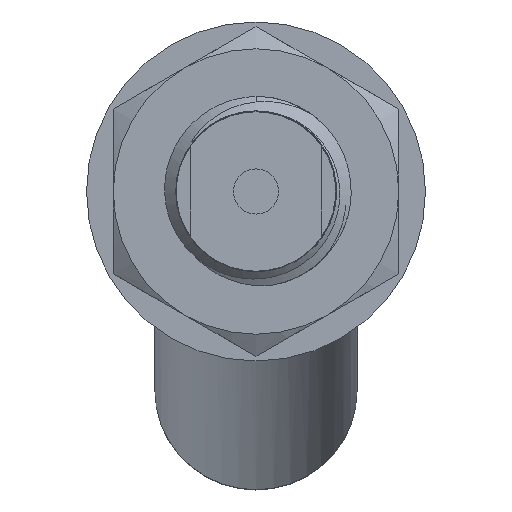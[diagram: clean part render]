
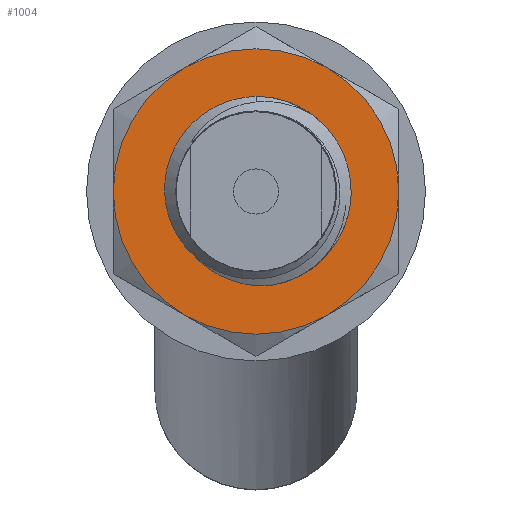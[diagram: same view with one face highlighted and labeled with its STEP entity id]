
A CAD part, front view. The second image highlights one B-rep face of the part: STEP entity #1004.
In plain terms, the highlighted planar face has unit normal (0, -1, 0).
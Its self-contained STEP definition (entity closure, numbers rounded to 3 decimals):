
#845=PLANE('',#2603);
#1004=ADVANCED_FACE('',(#1129,#1130),#845,.T.);
#1129=FACE_BOUND('',#1215,.T.);
#1130=FACE_BOUND('',#1216,.T.);
#1215=EDGE_LOOP('',(#1591,#1592,#1593,#1594,#1595,#1596));
#1216=EDGE_LOOP('',(#1597,#1598,#1599,#1600));
#1312=CIRCLE('',#2584,12.);
#1313=CIRCLE('',#2586,12.);
#1314=CIRCLE('',#2588,12.);
#1315=CIRCLE('',#2590,12.);
#1316=CIRCLE('',#2592,12.);
#1317=CIRCLE('',#2594,12.);
#1320=CIRCLE('',#2601,6.775);
#1321=CIRCLE('',#2602,8.);
#1400=B_SPLINE_CURVE_WITH_KNOTS('',3,(#5162,#5163,#5164,#5165,#5166,#5167,
#5168,#5169,#5170,#5171,#5172,#5173,#5174,#5175,#5176,#5177,#5178,#5179,
#5180,#5181,#5182,#5183),.UNSPECIFIED.,.F.,.F.,(4,3,3,3,3,3,3,4),(0.,0.132,
0.272,0.415,0.563,0.714,
0.869,1.),.UNSPECIFIED.);
#1401=B_SPLINE_CURVE_WITH_KNOTS('',3,(#5188,#5189,#5190,#5191,#5192,#5193,
#5194,#5195,#5196,#5197,#5198,#5199,#5200,#5201,#5202,#5203,#5204,#5205,
#5206,#5207,#5208,#5209),.UNSPECIFIED.,.F.,.F.,(4,3,3,3,3,3,3,4),(0.,0.155,
0.318,0.476,0.63,0.78,
0.927,1.),.UNSPECIFIED.);
#1591=ORIENTED_EDGE('',*,*,#2173,.T.);
#1592=ORIENTED_EDGE('',*,*,#2168,.T.);
#1593=ORIENTED_EDGE('',*,*,#2169,.T.);
#1594=ORIENTED_EDGE('',*,*,#2170,.T.);
#1595=ORIENTED_EDGE('',*,*,#2171,.T.);
#1596=ORIENTED_EDGE('',*,*,#2172,.T.);
#1597=ORIENTED_EDGE('',*,*,#2176,.F.);
#1598=ORIENTED_EDGE('',*,*,#2177,.T.);
#1599=ORIENTED_EDGE('',*,*,#2178,.F.);
#1600=ORIENTED_EDGE('',*,*,#2179,.T.);
#1968=VERTEX_POINT('',#5077);
#1970=VERTEX_POINT('',#5089);
#1972=VERTEX_POINT('',#5101);
#1974=VERTEX_POINT('',#5113);
#1976=VERTEX_POINT('',#5125);
#1978=VERTEX_POINT('',#5137);
#1981=VERTEX_POINT('',#5184);
#1982=VERTEX_POINT('',#5185);
#1983=VERTEX_POINT('',#5187);
#1984=VERTEX_POINT('',#5210);
#2168=EDGE_CURVE('',#1974,#1972,#1312,.T.);
#2169=EDGE_CURVE('',#1972,#1970,#1313,.T.);
#2170=EDGE_CURVE('',#1970,#1968,#1314,.T.);
#2171=EDGE_CURVE('',#1968,#1978,#1315,.T.);
#2172=EDGE_CURVE('',#1978,#1976,#1316,.T.);
#2173=EDGE_CURVE('',#1976,#1974,#1317,.T.);
#2176=EDGE_CURVE('',#1981,#1982,#1400,.T.);
#2177=EDGE_CURVE('',#1981,#1983,#1320,.T.);
#2178=EDGE_CURVE('',#1984,#1983,#1401,.T.);
#2179=EDGE_CURVE('',#1984,#1982,#1321,.T.);
#2584=AXIS2_PLACEMENT_3D('',#5143,#2832,#2833);
#2586=AXIS2_PLACEMENT_3D('',#5145,#2836,#2837);
#2588=AXIS2_PLACEMENT_3D('',#5147,#2840,#2841);
#2590=AXIS2_PLACEMENT_3D('',#5149,#2844,#2845);
#2592=AXIS2_PLACEMENT_3D('',#5151,#2848,#2849);
#2594=AXIS2_PLACEMENT_3D('',#5153,#2852,#2853);
#2601=AXIS2_PLACEMENT_3D('',#5186,#2866,#2867);
#2602=AXIS2_PLACEMENT_3D('',#5211,#2868,#2869);
#2603=AXIS2_PLACEMENT_3D('',#5212,#2870,#2871);
#2832=DIRECTION('',(0.,-1.,0.));
#2833=DIRECTION('',(-1.,0.,0.));
#2836=DIRECTION('',(0.,-1.,0.));
#2837=DIRECTION('',(-1.,0.,0.));
#2840=DIRECTION('',(0.,-1.,0.));
#2841=DIRECTION('',(-1.,0.,0.));
#2844=DIRECTION('',(0.,-1.,0.));
#2845=DIRECTION('',(-1.,0.,0.));
#2848=DIRECTION('',(0.,-1.,0.));
#2849=DIRECTION('',(-1.,0.,0.));
#2852=DIRECTION('',(0.,-1.,0.));
#2853=DIRECTION('',(-1.,0.,0.));
#2866=DIRECTION('',(0.,1.,0.));
#2867=DIRECTION('',(0.,0.,-1.));
#2868=DIRECTION('',(0.,1.,0.));
#2869=DIRECTION('',(0.,0.,-1.));
#2870=DIRECTION('',(0.,-1.,0.));
#2871=DIRECTION('',(-1.,0.,0.));
#5077=CARTESIAN_POINT('',(12.,-20.5,0.));
#5089=CARTESIAN_POINT('',(6.,-20.5,-10.392));
#5101=CARTESIAN_POINT('',(-6.,-20.5,-10.392));
#5113=CARTESIAN_POINT('',(-12.,-20.5,0.));
#5125=CARTESIAN_POINT('',(-6.,-20.5,10.392));
#5137=CARTESIAN_POINT('',(6.,-20.5,10.392));
#5143=CARTESIAN_POINT('',(0.,-20.5,0.));
#5145=CARTESIAN_POINT('',(0.,-20.5,0.));
#5147=CARTESIAN_POINT('',(0.,-20.5,0.));
#5149=CARTESIAN_POINT('',(0.,-20.5,0.));
#5151=CARTESIAN_POINT('',(0.,-20.5,0.));
#5153=CARTESIAN_POINT('',(0.,-20.5,0.));
#5162=CARTESIAN_POINT('',(-5.99,-20.5,3.166));
#5163=CARTESIAN_POINT('',(-6.379,-20.5,2.556));
#5164=CARTESIAN_POINT('',(-6.671,-20.5,1.875));
#5165=CARTESIAN_POINT('',(-6.849,-20.5,1.174));
#5166=CARTESIAN_POINT('',(-7.038,-20.5,0.434));
#5167=CARTESIAN_POINT('',(-7.103,-20.5,-0.347));
#5168=CARTESIAN_POINT('',(-7.042,-20.5,-1.107));
#5169=CARTESIAN_POINT('',(-6.98,-20.5,-1.887));
#5170=CARTESIAN_POINT('',(-6.787,-20.5,-2.667));
#5171=CARTESIAN_POINT('',(-6.477,-20.5,-3.386));
#5172=CARTESIAN_POINT('',(-6.159,-20.5,-4.124));
#5173=CARTESIAN_POINT('',(-5.712,-20.5,-4.819));
#5174=CARTESIAN_POINT('',(-5.173,-20.5,-5.416));
#5175=CARTESIAN_POINT('',(-4.618,-20.5,-6.029));
#5176=CARTESIAN_POINT('',(-3.953,-20.5,-6.555));
#5177=CARTESIAN_POINT('',(-3.23,-20.5,-6.956));
#5178=CARTESIAN_POINT('',(-2.489,-20.5,-7.368));
#5179=CARTESIAN_POINT('',(-1.667,-20.5,-7.657));
#5180=CARTESIAN_POINT('',(-0.833,-20.5,-7.806));
#5181=CARTESIAN_POINT('',(-0.128,-20.5,-7.932));
#5182=CARTESIAN_POINT('',(0.6,-20.5,-7.96));
#5183=CARTESIAN_POINT('',(1.313,-20.5,-7.892));
#5184=CARTESIAN_POINT('',(-5.99,-20.5,3.166));
#5185=CARTESIAN_POINT('',(1.313,-20.5,-7.892));
#5186=CARTESIAN_POINT('',(0.,-20.5,0.));
#5187=CARTESIAN_POINT('',(1.141,-20.5,6.678));
#5188=CARTESIAN_POINT('',(5.465,-20.5,-5.842));
#5189=CARTESIAN_POINT('',(6.042,-20.5,-5.224));
#5190=CARTESIAN_POINT('',(6.524,-20.5,-4.502));
#5191=CARTESIAN_POINT('',(6.875,-20.5,-3.732));
#5192=CARTESIAN_POINT('',(7.242,-20.5,-2.926));
#5193=CARTESIAN_POINT('',(7.472,-20.5,-2.043));
#5194=CARTESIAN_POINT('',(7.543,-20.5,-1.161));
#5195=CARTESIAN_POINT('',(7.613,-20.5,-0.301));
#5196=CARTESIAN_POINT('',(7.533,-20.5,0.585));
#5197=CARTESIAN_POINT('',(7.306,-20.5,1.417));
#5198=CARTESIAN_POINT('',(7.085,-20.5,2.229));
#5199=CARTESIAN_POINT('',(6.72,-20.5,3.014));
#5200=CARTESIAN_POINT('',(6.237,-20.5,3.702));
#5201=CARTESIAN_POINT('',(5.766,-20.5,4.372));
#5202=CARTESIAN_POINT('',(5.172,-20.5,4.972));
#5203=CARTESIAN_POINT('',(4.501,-20.5,5.443));
#5204=CARTESIAN_POINT('',(3.848,-20.5,5.902));
#5205=CARTESIAN_POINT('',(3.105,-20.5,6.255));
#5206=CARTESIAN_POINT('',(2.334,-20.5,6.465));
#5207=CARTESIAN_POINT('',(1.945,-20.5,6.571));
#5208=CARTESIAN_POINT('',(1.544,-20.5,6.642));
#5209=CARTESIAN_POINT('',(1.141,-20.5,6.678));
#5210=CARTESIAN_POINT('',(5.465,-20.5,-5.842));
#5211=CARTESIAN_POINT('',(0.,-20.5,0.));
#5212=CARTESIAN_POINT('',(0.,-20.5,13.856));
